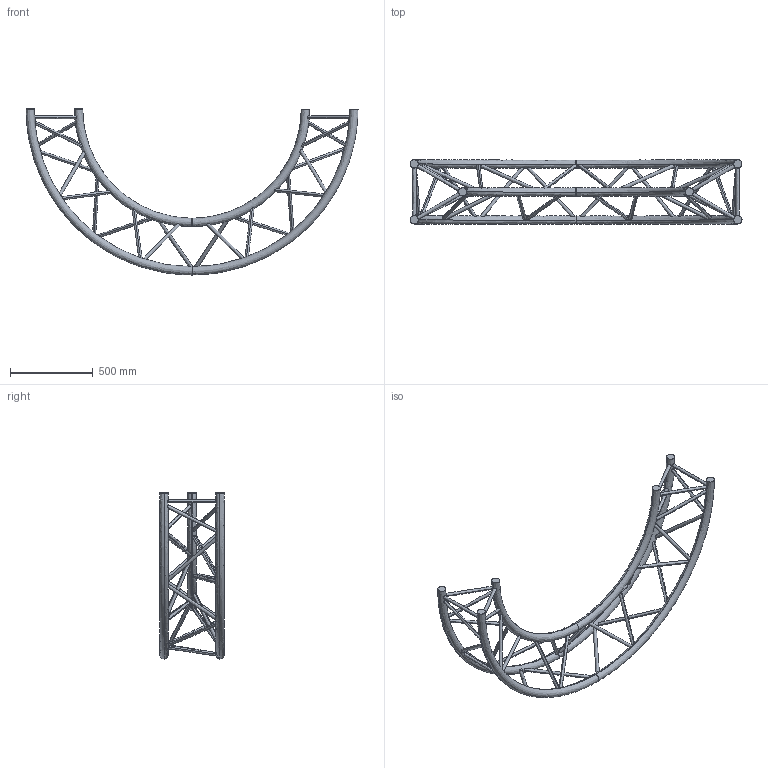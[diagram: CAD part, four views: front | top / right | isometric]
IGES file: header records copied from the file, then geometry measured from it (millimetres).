
Start section: SolidWorks IGES file using analytic representation for surfaces
Global section: file name: K:\BIBLIO\asd_biblio\SX390\Cercles\SXC39PI\SXC39200PI\SXC39200PI.IGS; native system: SolidWorks 2009; preprocessor: SolidWorks 2009; author: des3; date: 091021.134921; units: millimetre
Bounding box: 2000 x 387 x 1000 mm (x, y, z)
Surface area: 2064720.6 mm2 (no closed solid volume)
Topology: 0 solids, 0 shells, 90 faces, 6019 edges, 6019 vertices
Faces by surface type: revolution 72, bspline 18
